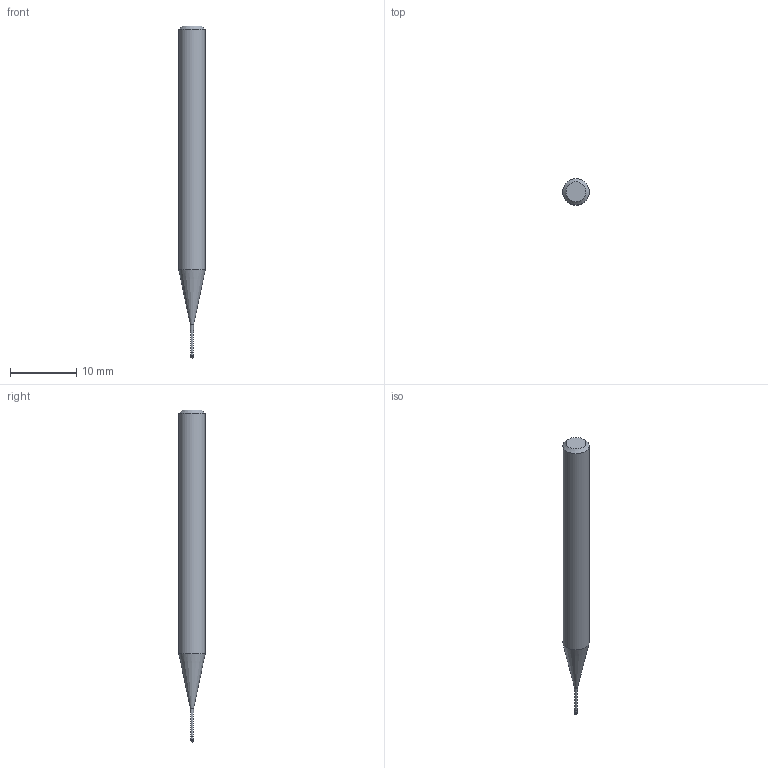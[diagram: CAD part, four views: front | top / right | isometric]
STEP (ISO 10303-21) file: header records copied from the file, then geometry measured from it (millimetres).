
FILE_DESCRIPTION((''),'2;1');
FILE_NAME('C:\Users\nsx150\AppData\Local\Temp\Mastercam 2021\SNAKH10GOD\TEMP.step','2021-10-21T13:30:54',(''),(''),'STEP Write','Mastercam 2021 ... CNC Software, Inc.','');
FILE_SCHEMA(('AUTOMOTIVE_DESIGN'));
Length unit declared in the file: millimetre
Products named in the file (1): None
Bounding box: 4 x 4 x 50 mm (x, y, z)
Volume: 499.8 mm3; surface area: 536.3 mm2
Topology: 2 solids, 2 shells, 10 faces, 16 edges, 9 vertices
Faces by surface type: plane 3, cylinder 3, cone 3, sphere 1
Full cylindrical faces by diameter (mm): 0.395 x1, 0.4 x1, 4 x1
Entity records: 232 total; most frequent: DIRECTION 40, CARTESIAN_POINT 28, AXIS2_PLACEMENT_3D 20, ORIENTED_EDGE 16, EDGE_LOOP 16, STYLED_ITEM 13, ADVANCED_FACE 10, FACE_BOUND 9
